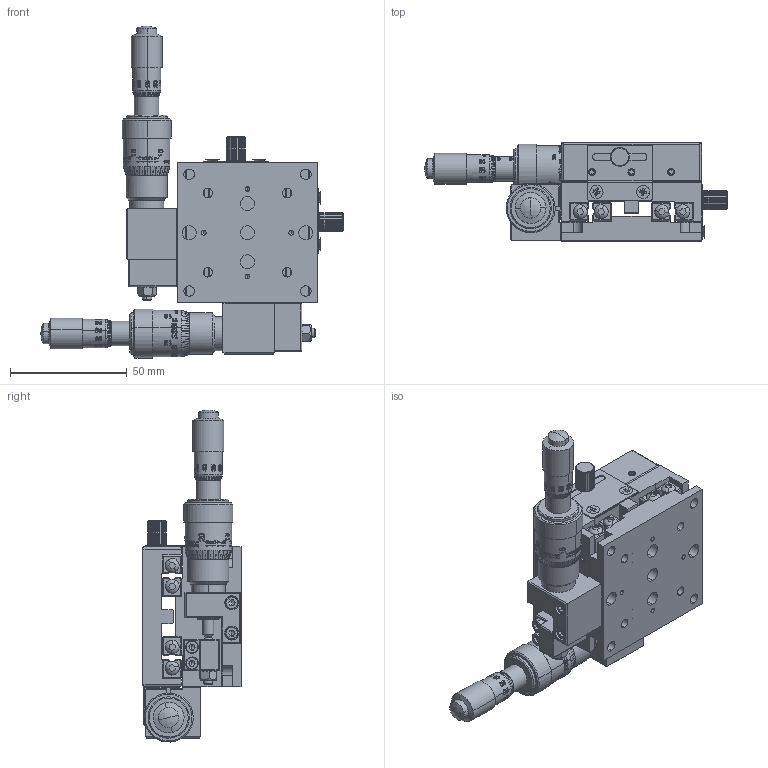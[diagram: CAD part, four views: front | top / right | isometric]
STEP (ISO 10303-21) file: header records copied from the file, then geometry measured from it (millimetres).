
FILE_DESCRIPTION (( 'STEP AP203' ), '1' );
FILE_NAME ('M-STSS60XY-05P.STEP', '2019-01-24T01:18:13', ( '' ), ( '' ), 'SwSTEP 2.0', 'SolidWorks 2016', '' );
FILE_SCHEMA (( 'CONFIG_CONTROL_DESIGN' ));
Length unit declared in the file: millimetre
Products named in the file (20): prevailing torque hex nut_am_AM-M4-N; TS-60-1; ψ7.5X11.5L; socket set screw flat point_am_B18.3.6M - M4 x 0.7 x 20 Hex Socket Flat Pt. SS --N; socket set screw flat point_am_B18.3.6M - M3 x 0.5 x 3 Hex Socket Flat Pt. SS --N; M3皿頭; TS60中板; socket head cap screw_am_B18.3.1M - 3 x 0.5 x 20 Hex SHCS -- 20NHX; M3圓頭; MER-13P-主體-後管; socket head cap screw_am_B18.3.1M - 3 x 0.5 x 12 Hex SHCS -- 12NHX; 固定片2; 分厘卡墊環; TS60底板; MER-13P-主體-前管; TS60面板; socket head cap screw_am_B18.3.1M - 3 x 0.5 x 10 Hex SHCS -- 10NHX; TS60側推分厘卡座-P; M-STSS60XY-05P; TS60頂點座
Assembly tree (71 placements, depth 2):
  M-STSS60XY-05P
    ψ7.5X11.5L  x2
    M3皿頭  x4
    M3圓頭  x16
    固定片2  x2
    TS60底板
    TS60面板
    TS60側推分厘卡座-P  x2
    TS60頂點座  x2
    TS-60-1  x8
    socket set screw flat point_am_B18.3.6M - M3 x 0.5 x 3 Hex Socket Flat Pt. SS --N  x12
    socket head cap screw_am_B18.3.1M - 3 x 0.5 x 20 Hex SHCS -- 20NHX  x4
    socket head cap screw_am_B18.3.1M - 3 x 0.5 x 12 Hex SHCS -- 12NHX  x4
    prevailing torque hex nut_am_AM-M4-N  x2
    socket set screw flat point_am_B18.3.6M - M4 x 0.7 x 20 Hex Socket Flat Pt. SS --N  x2
    TS60中板
    MER-13P-主體-後管  x2
    分厘卡墊環  x2
    MER-13P-主體-前管  x2
    socket head cap screw_am_B18.3.1M - 3 x 0.5 x 10 Hex SHCS -- 10NHX  x2
Bounding box: 129.55 x 42 x 142.23 mm (x, y, z)
Volume: 177395.5 mm3; surface area: 94587.7 mm2
Topology: 71 solids, 71 shells, 5695 faces, 14618 edges, 9321 vertices
Faces by surface type: plane 2490, bspline 1442, cylinder 1061, cone 618, torus 52, sphere 32
Entity records: 148133 total; most frequent: CARTESIAN_POINT 84000, ORIENTED_EDGE 14002, DIRECTION 10170, EDGE_CURVE 7001, VERTEX_POINT 4548, AXIS2_PLACEMENT_3D 3759, EDGE_LOOP 3069, FACE_OUTER_BOUND 2722
